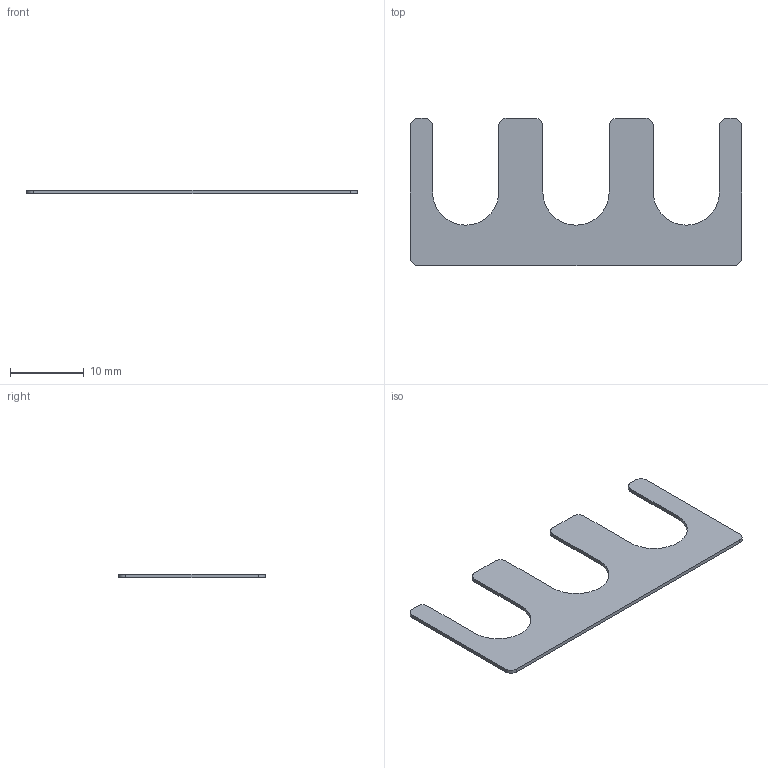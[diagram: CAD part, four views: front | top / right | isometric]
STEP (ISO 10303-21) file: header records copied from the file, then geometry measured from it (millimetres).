
FILE_DESCRIPTION (( 'STEP AP214' ), '1' );
FILE_NAME ('S-45x20-08-03-05-VA-00-00__Notum.STEP', '2018-03-29T11:21:18', ( '' ), ( '' ), 'SwSTEP 2.0', 'SolidWorks 2015', '' );
FILE_SCHEMA (( 'AUTOMOTIVE_DESIGN' ));
Length unit declared in the file: millimetre
Products named in the file (1): S-45x20-08-03-05-VA-00-00__Notum
Bounding box: 45 x 20 x 0.5 mm (x, y, z)
Volume: 266.2 mm3; surface area: 1165.4 mm2
Topology: 1 solids, 1 shells, 28 faces, 78 edges, 52 vertices
Faces by surface type: plane 15, cylinder 13
Entity records: 942 total; most frequent: DIRECTION 162, CARTESIAN_POINT 159, ORIENTED_EDGE 156, EDGE_CURVE 78, AXIS2_PLACEMENT_3D 55, VECTOR 52, LINE 52, VERTEX_POINT 52
